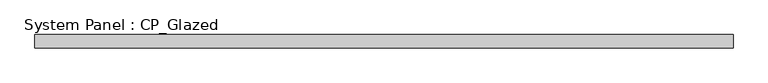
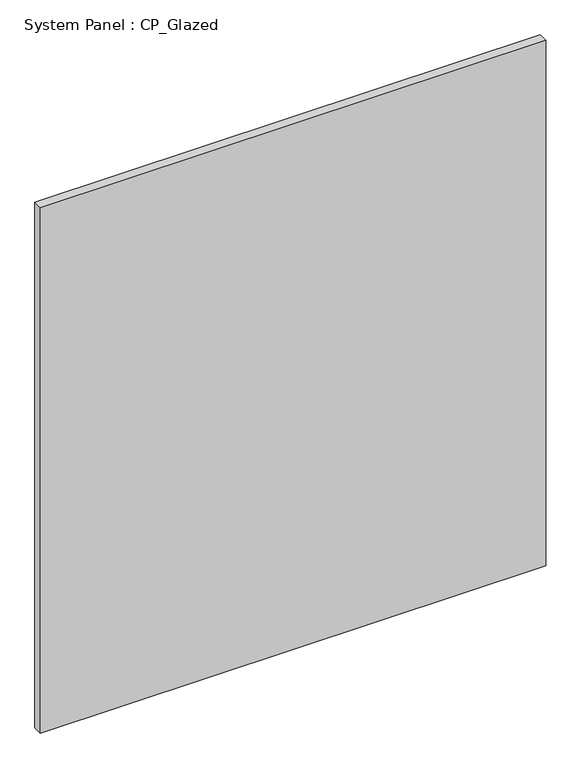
"""IFC4 building model written with IfcOpenShell, lengths in millimetres: plate geometry, System Panel : CP_Glazed."""

from ifc_helpers import new_model, si_unit, origin, origin_with_axes, place, context, project, spatial, polyline, outline, extrude, source, transform, mapped, element, save


def system_panel_cp_glazed_f339ee89(model_context):
    return source(origin(), model_context, "Body", "SweptSolid", [
        extrude(outline(polyline([(673.0686646, -44.45), (-673.0686646, -44.45), (-673.0686646, -19.05), (673.0686646, -19.05), (673.0686646, -44.45)])), origin_with_axes(), (0.0, 0.0, 1.0), 1479.55),
    ])


if __name__ == "__main__":
    model = new_model("IFC4")
    model_context = context("Model", 3, world=origin())
    ifc_project = project(units=[si_unit("LENGTHUNIT", "METRE", prefix="MILLI")], contexts=[model_context])
    site = spatial("IfcSite", under=ifc_project)
    building = spatial("IfcBuilding", under=site)
    placement = place(None, origin())
    system_panel_cp_glazed_shape = system_panel_cp_glazed_f339ee89(model_context)
    element("IfcPlate", 1, ObjectType="System Panel : CP_Glazed", at=placement, inside=building, context=model_context, shape_type="MappedRepresentation", body=[
        mapped(system_panel_cp_glazed_shape, transform((0.0, 0.0, 0.0), x_axis=(1.0, 0.0, 0.0), y_axis=(0.0, 1.0, 0.0), z_axis=(0.0, 0.0, 1.0))),
    ])
    save(model, "model.ifc")
